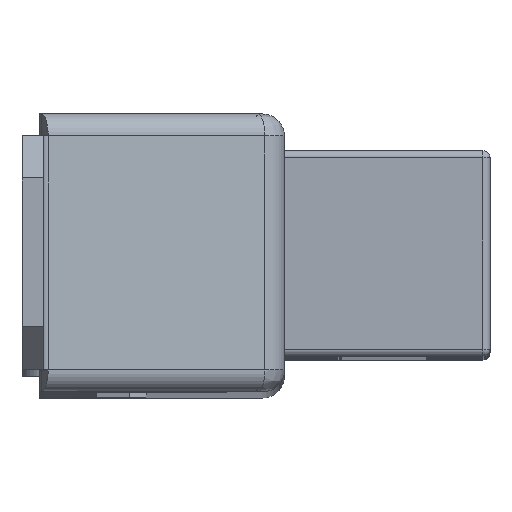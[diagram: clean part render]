
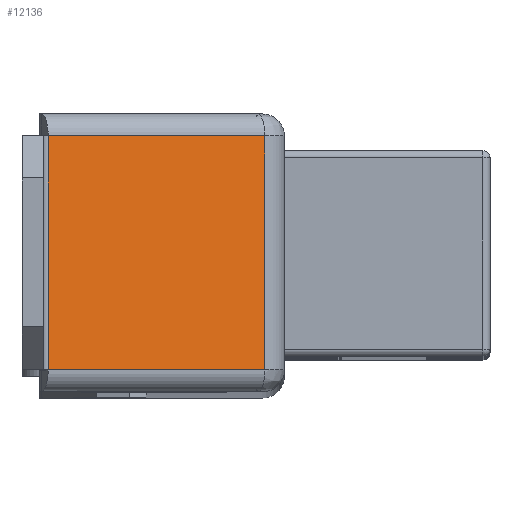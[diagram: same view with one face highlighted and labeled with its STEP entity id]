
A CAD part, top view. The second image highlights one B-rep face of the part: STEP entity #12136.
In plain terms, the highlighted planar face has unit normal (0.314, 0, 0.949) as drawn and (-0.949, 0.314, 0) by its records, which use the part's own axes.
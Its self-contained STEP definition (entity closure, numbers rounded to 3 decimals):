
#49=DIRECTION('',(0.,0.,-1.));
#50=VECTOR('',#49,33.);
#51=CARTESIAN_POINT('',(-258.523,0.686,16.5));
#52=LINE('',#51,#50);
#2807=DIRECTION('',(0.314,0.949,0.));
#2808=VECTOR('',#2807,32.201);
#2809=CARTESIAN_POINT('',(-258.523,0.686,16.5));
#2810=LINE('',#2809,#2808);
#3007=DIRECTION('',(0.,0.,-1.));
#3008=VECTOR('',#3007,33.);
#3009=CARTESIAN_POINT('',(-248.408,31.257,16.5));
#3010=LINE('',#3009,#3008);
#3016=DIRECTION('',(0.314,0.949,0.));
#3017=VECTOR('',#3016,32.201);
#3018=CARTESIAN_POINT('',(-258.523,0.686,-16.5));
#3019=LINE('',#3018,#3017);
#7275=CARTESIAN_POINT('',(-258.523,0.686,-16.5));
#7277=VERTEX_POINT('',#7275);
#7299=CARTESIAN_POINT('',(-248.408,31.257,16.5));
#7300=CARTESIAN_POINT('',(-248.408,31.257,-16.5));
#7301=VERTEX_POINT('',#7299);
#7302=VERTEX_POINT('',#7300);
#7321=CARTESIAN_POINT('',(-258.523,0.686,16.5));
#7322=VERTEX_POINT('',#7321);
#12124=CARTESIAN_POINT('',(-248.408,31.257,16.5));
#12125=DIRECTION('',(-0.949,0.314,0.));
#12126=DIRECTION('',(-0.314,-0.949,0.));
#12127=AXIS2_PLACEMENT_3D('',#12124,#12125,#12126);
#12128=PLANE('',#12127);
#12129=ORIENTED_EDGE('',*,*,#11768,.F.);
#12130=ORIENTED_EDGE('',*,*,#9662,.T.);
#12132=ORIENTED_EDGE('',*,*,#12131,.T.);
#12133=ORIENTED_EDGE('',*,*,#12116,.F.);
#12134=EDGE_LOOP('',(#12129,#12130,#12132,#12133));
#12135=FACE_OUTER_BOUND('',#12134,.F.);
#12136=ADVANCED_FACE('',(#12135),#12128,.T.);
#9662=EDGE_CURVE('',#7322,#7277,#52,.T.);
#11768=EDGE_CURVE('',#7322,#7301,#2810,.T.);
#12116=EDGE_CURVE('',#7301,#7302,#3010,.T.);
#12131=EDGE_CURVE('',#7277,#7302,#3019,.T.);
